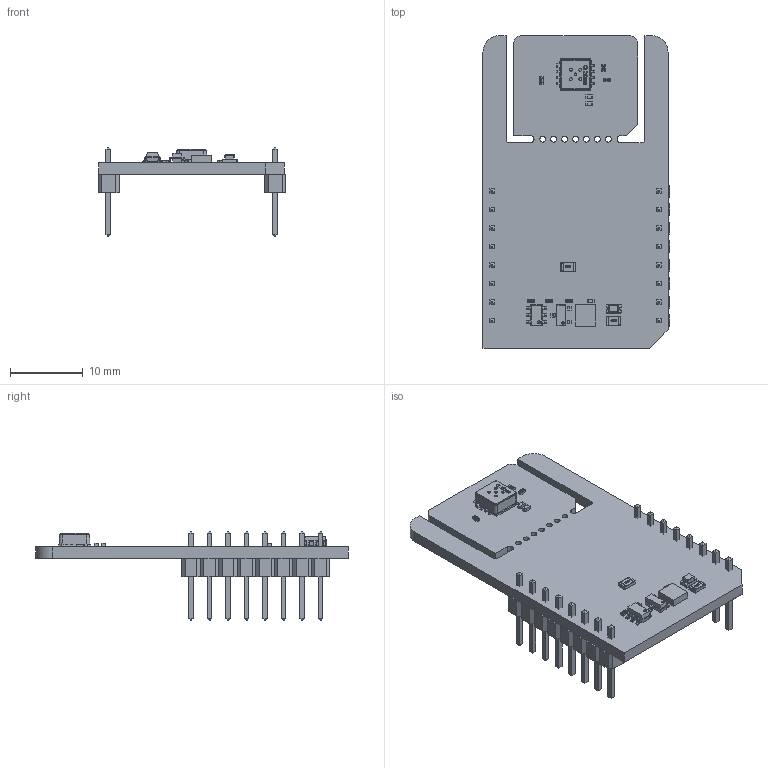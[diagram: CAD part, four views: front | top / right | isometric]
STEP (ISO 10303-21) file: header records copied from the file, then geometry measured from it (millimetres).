
FILE_DESCRIPTION(('Open CASCADE Model'),'2;1');
FILE_NAME('Open CASCADE Shape Model','2026-01-27T10:40:03',('Author'),( 'Open CASCADE'),'Open CASCADE STEP processor 6.8','Open CASCADE 6.8' ,'Unknown');
FILE_SCHEMA(('AUTOMOTIVE_DESIGN { 1 0 10303 214 1 1 1 1 }'));
Length unit declared in the file: millimetre
Products named in the file (34): PCB; Board; JP1; User_Library-R_0805; MBD1; Header_1x8; Free-Models; 1240637040; User_Library-PinHeaderX5-1_PinHeaderX5_Body_1; User_Library-PinHeaderX5-1_PinHeaderX5_Pins_1; U2; User_Library-SOT23-6-2; U1; 1311762608; Extruded; Q1; SOT23-3; R4; User_Library-R_0402; C1; User_Library-SMD_CAPACITOR0402; R2; LD1; led_0805_green; R1; R3; C2; C3; R5; R8; R9; U3; PG-DFN-8-1_Z8B00188260_V18_3D
Assembly tree (43 placements, depth 7):
  PCB
    Board
    JP1
      User_Library-R_0805
    MBD1
      Header_1x8  x2
        PCB
          Free-Models
            1240637040  x2
              User_Library-PinHeaderX5-1_PinHeaderX5_Body_1
              User_Library-PinHeaderX5-1_PinHeaderX5_Pins_1
    U2
      User_Library-SOT23-6-2
    U1
      1311762608
        Extruded
    Q1
      SOT23-3
    R4
      User_Library-R_0402
    C1
      User_Library-SMD_CAPACITOR0402
    R2
      User_Library-R_0402
    LD1
      led_0805_green
    R1
      User_Library-R_0805
    R3
      User_Library-R_0402
    C2
      User_Library-SMD_CAPACITOR0402
    C3
      User_Library-SMD_CAPACITOR0402
    R5
      User_Library-R_0402
    R8
      User_Library-R_0402
    R9
      User_Library-R_0402
    U3
      PG-DFN-8-1_Z8B00188260_V18_3D
Bounding box: 25.78 x 42.93 x 12.19 mm (x, y, z)
Volume: 2154.8 mm3; surface area: 4044.8 mm2
Topology: 79 solids, 80 shells, 1816 faces, 4498 edges, 2880 vertices
Faces by surface type: plane 1366, bspline 258, cylinder 160, sphere 32
Full cylindrical faces by diameter (mm): 0.085 x1, 0.174 x1, 0.3 x8, 0.4 x5, 0.8 x7
Entity records: 32538 total; most frequent: CARTESIAN_POINT 9110, ORIENTED_EDGE 4134, DIRECTION 3754, EDGE_CURVE 2067, LINE 1610, VECTOR 1610, VERTEX_POINT 1334, AXIS2_PLACEMENT_3D 1072
